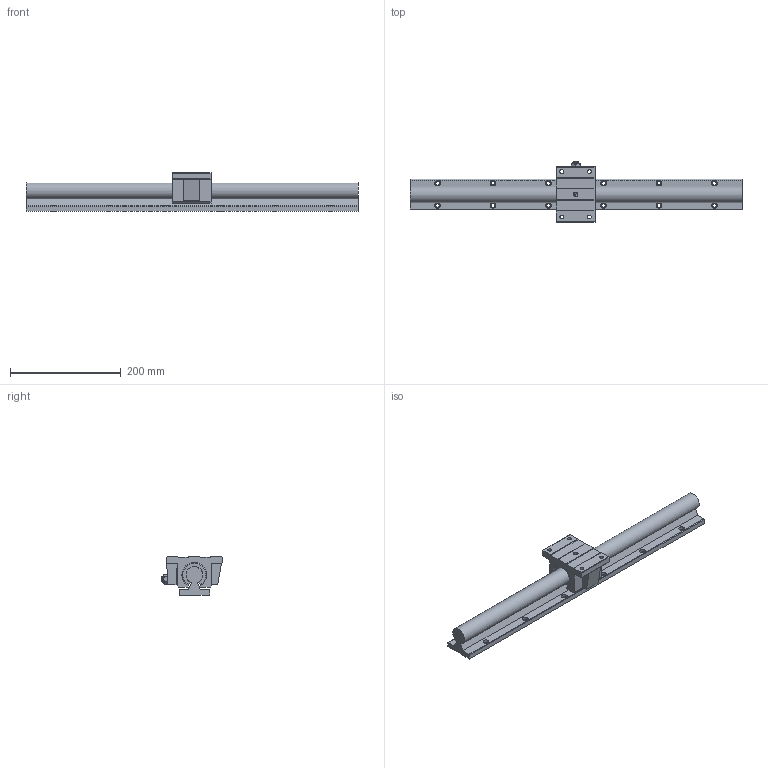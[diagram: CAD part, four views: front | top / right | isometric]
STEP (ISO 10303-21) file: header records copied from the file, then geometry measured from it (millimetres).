
FILE_DESCRIPTION((''),'2;1');
FILE_NAME('C:\Documents and Settings\土屋\My Documents\土屋移動用フォルダ\製品 (図面)\カタログ用3D\リニアガイド\GT\GT30.stp','2015-05-28T09:11:04',('y'),(''),'Autodesk Inventor 11','Autodesk Inventor 11','');
FILE_SCHEMA(('AUTOMOTIVE_DESIGN { 1 0 10303 214 1 1 1 1 }'));
Length unit declared in the file: millimetre
Products named in the file (3): GT30; G30R; GT30H
Assembly tree (2 placements, depth 2):
  GT30
    G30R
    GT30H
Bounding box: 600 x 108.5 x 70 mm (x, y, z)
Volume: 1098931.2 mm3; surface area: 176936.4 mm2
Topology: 2 solids, 2 shells, 164 faces, 423 edges, 274 vertices
Faces by surface type: plane 82, bspline 40, cylinder 25, cone 15, torus 2
Full cylindrical faces by diameter (mm): 7 x2, 10 x2
Entity records: 5236 total; most frequent: CARTESIAN_POINT 1424, ORIENTED_EDGE 764, DIRECTION 719, EDGE_CURVE 382, VERTEX_POINT 267, AXIS2_PLACEMENT_3D 248, EDGE_LOOP 247, VECTOR 223
